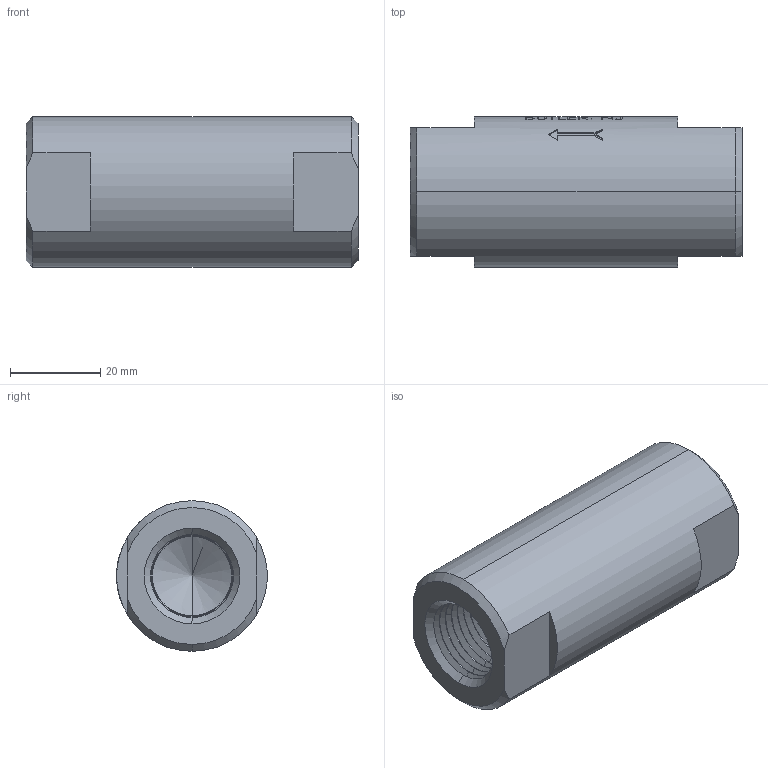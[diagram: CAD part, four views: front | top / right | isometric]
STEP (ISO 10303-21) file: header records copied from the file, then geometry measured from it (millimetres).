
FILE_DESCRIPTION (( 'STEP AP203' ), '1' );
FILE_NAME ('HPCV-8F.STEP', '2019-07-23T16:15:55', ( '' ), ( '' ), 'SwSTEP 2.0', 'SolidWorks 2011', '' );
FILE_SCHEMA (( 'CONFIG_CONTROL_DESIGN' ));
Length unit declared in the file: inch
Products named in the file (2): HPCV-8F; Part1^HPCV-8FSS-T_CM
Assembly tree (1 placements, depth 2):
  HPCV-8F
    Part1^HPCV-8FSS-T_CM
Bounding box: 73.41 x 33.22 x 33.32 mm (x, y, z)
Volume: 51027.9 mm3; surface area: 12787.4 mm2
Topology: 1 solids, 1 shells, 365 faces, 924 edges, 582 vertices
Faces by surface type: plane 140, cone 118, bspline 70, cylinder 37
Entity records: 18596 total; most frequent: CARTESIAN_POINT 9897, ORIENTED_EDGE 1840, DIRECTION 1662, EDGE_CURVE 920, AXIS2_PLACEMENT_3D 589, VERTEX_POINT 582, LINE 484, VECTOR 484
